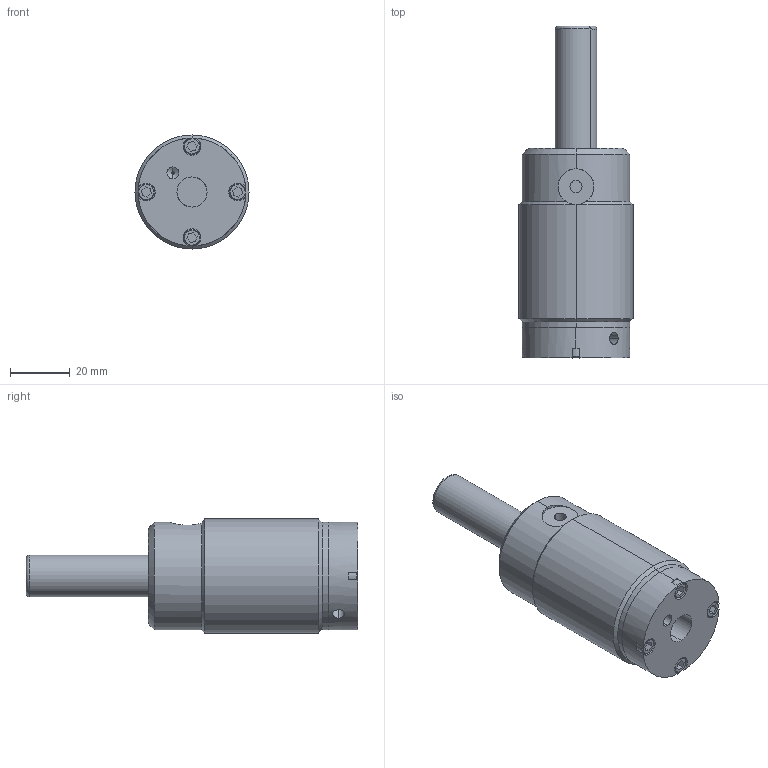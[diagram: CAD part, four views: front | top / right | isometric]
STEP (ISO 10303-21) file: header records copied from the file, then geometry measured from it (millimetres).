
FILE_DESCRIPTION((''),'2;1');
FILE_NAME('001_DESTACO_035_910_ASM','2024-02-28T',('SYSTEM'),(''),'PRO/ENGINEER BY PARAMETRIC TECHNOLOGY CORPORATION, 2016360','PRO/ENGINEER BY PARAMETRIC TECHNOLOGY CORPORATION, 2016360','');
FILE_SCHEMA(('AUTOMOTIVE_DESIGN { 1 0 10303 214 1 1 1 1 }'));
Products named in the file (10): 125BODY_5_RNM; 125BODY_4_RNM; 125BODY_3_RNM; 125BODY_2_RNM; 125BODY_1_RNM; 125BODY_0_RNM; 125-BODY_ASM; 125BODY_6_RNM; 125-SHAFT_ASM; 001_DESTACO_035_910_ASM
Assembly tree (9 placements, depth 3):
  001_DESTACO_035_910_ASM
    125-BODY_ASM
      125BODY_5_RNM
      125BODY_4_RNM
      125BODY_3_RNM
      125BODY_2_RNM
      125BODY_1_RNM
      125BODY_0_RNM
    125-SHAFT_ASM
      125BODY_6_RNM
Bounding box: 38.1 x 110.89 x 38.1 mm (x, y, z)
Volume: 76775.7 mm3; surface area: 21447.3 mm2
Topology: 7 solids, 7 shells, 177 faces, 403 edges, 249 vertices
Faces by surface type: cylinder 80, plane 57, cone 38, torus 2
Entity records: 7331 total; most frequent: CARTESIAN_POINT 1369, DIRECTION 970, ORIENTED_EDGE 786, PRESENTATION_STYLE_ASSIGNMENT 400, STYLED_ITEM 400, CURVE_STYLE 393, EDGE_CURVE 393, AXIS2_PLACEMENT_3D 388
